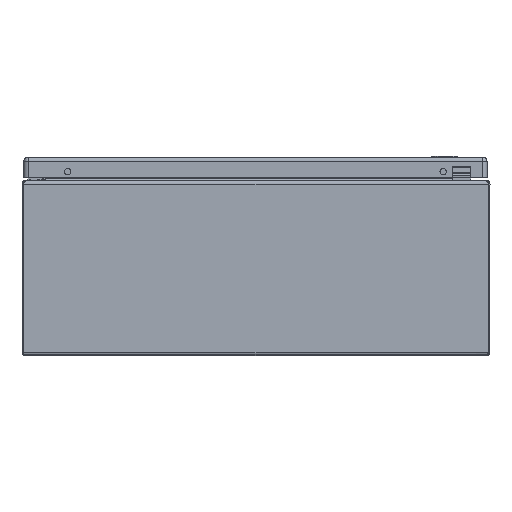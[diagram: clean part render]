
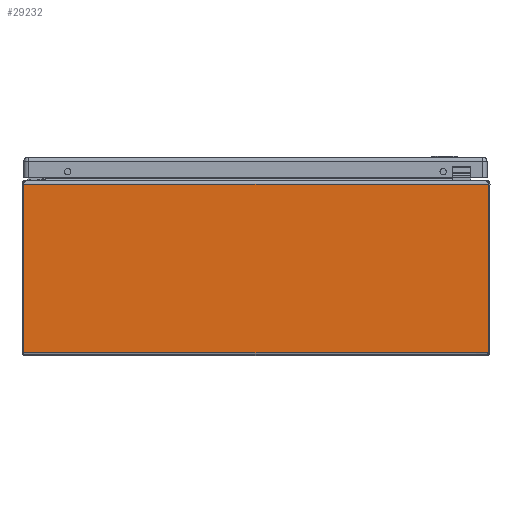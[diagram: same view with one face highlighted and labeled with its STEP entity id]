
A CAD part, front view. The second image highlights one B-rep face of the part: STEP entity #29232.
In plain terms, the highlighted planar face has unit normal (0, -1, 0).
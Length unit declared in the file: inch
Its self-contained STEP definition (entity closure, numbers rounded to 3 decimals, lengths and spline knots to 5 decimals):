
#1350 = AXIS2_PLACEMENT_3D ( 'NONE', #23988, #24003, #24004 ) ;
#3355 = EDGE_CURVE ( 'NONE', #42634, #44834, #32424, .T. ) ;
#3447 = EDGE_CURVE ( 'NONE', #44785, #44745, #32512, .T. ) ;
#3459 = EDGE_CURVE ( 'NONE', #42634, #44745, #32539, .T. ) ;
#3463 = EDGE_CURVE ( 'NONE', #44834, #44785, #32547, .T. ) ;
#5687 = CARTESIAN_POINT ( 'NONE',  ( -7.94693, -10., 5.859 ) ) ;
#5895 = CARTESIAN_POINT ( 'NONE',  ( 7.94693, -10., 5.859 ) ) ;
#5935 = CARTESIAN_POINT ( 'NONE',  ( 7.94693, -10., 0.097 ) ) ;
#9663 = FACE_OUTER_BOUND ( 'NONE', #36629, .T. ) ;
#17611 = CARTESIAN_POINT ( 'NONE',  ( -7.94693, -10., 0.097 ) ) ;
#23988 = CARTESIAN_POINT ( 'NONE',  ( -108., -10., 5.859 ) ) ;
#23997 = PLANE ( 'NONE',  #1350 ) ;
#24003 = DIRECTION ( 'NONE',  ( 0., -1., 0. ) ) ;
#24004 = DIRECTION ( 'NONE',  ( 0., 0., -1. ) ) ;
#25995 = DIRECTION ( 'NONE',  ( 1., 0., 0. ) ) ;
#25996 = CARTESIAN_POINT ( 'NONE',  ( -108., -10., 0.097 ) ) ;
#26004 = DIRECTION ( 'NONE',  ( 1., 0., 0. ) ) ;
#26005 = CARTESIAN_POINT ( 'NONE',  ( -108., -10., 5.859 ) ) ;
#26027 = DIRECTION ( 'NONE',  ( 0., 0., 1. ) ) ;
#26028 = CARTESIAN_POINT ( 'NONE',  ( 7.94693, -10., 5.859 ) ) ;
#26144 = DIRECTION ( 'NONE',  ( 0., 0., -1. ) ) ;
#26148 = CARTESIAN_POINT ( 'NONE',  ( -7.94693, -10., 5.859 ) ) ;
#29232 = ADVANCED_FACE ( 'NONE', ( #9663 ), #23997, .T. ) ;
#32411 = VECTOR ( 'NONE', #26144, 39.37008 ) ;
#32424 = LINE ( 'NONE', #26148, #32411 ) ;
#32512 = LINE ( 'NONE', #26028, #32522 ) ;
#32522 = VECTOR ( 'NONE', #26027, 39.37008 ) ;
#32539 = LINE ( 'NONE', #26005, #32540 ) ;
#32540 = VECTOR ( 'NONE', #26004, 39.37008 ) ;
#32547 = LINE ( 'NONE', #25996, #32548 ) ;
#32548 = VECTOR ( 'NONE', #25995, 39.37008 ) ;
#36629 = EDGE_LOOP ( 'NONE', ( #39808, #39807, #39806, #39805 ) ) ;
#39805 = ORIENTED_EDGE ( 'NONE', *, *, #3463, .T. ) ;
#39806 = ORIENTED_EDGE ( 'NONE', *, *, #3355, .T. ) ;
#39807 = ORIENTED_EDGE ( 'NONE', *, *, #3459, .F. ) ;
#39808 = ORIENTED_EDGE ( 'NONE', *, *, #3447, .T. ) ;
#42634 = VERTEX_POINT ( 'NONE', #5687 ) ;
#44745 = VERTEX_POINT ( 'NONE', #5895 ) ;
#44785 = VERTEX_POINT ( 'NONE', #5935 ) ;
#44834 = VERTEX_POINT ( 'NONE', #17611 ) ;
